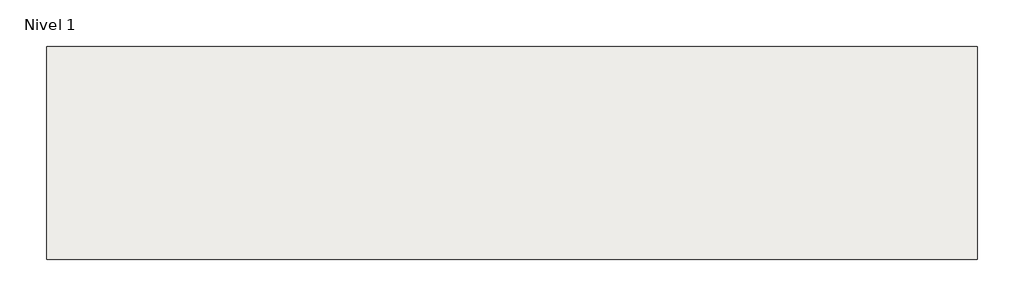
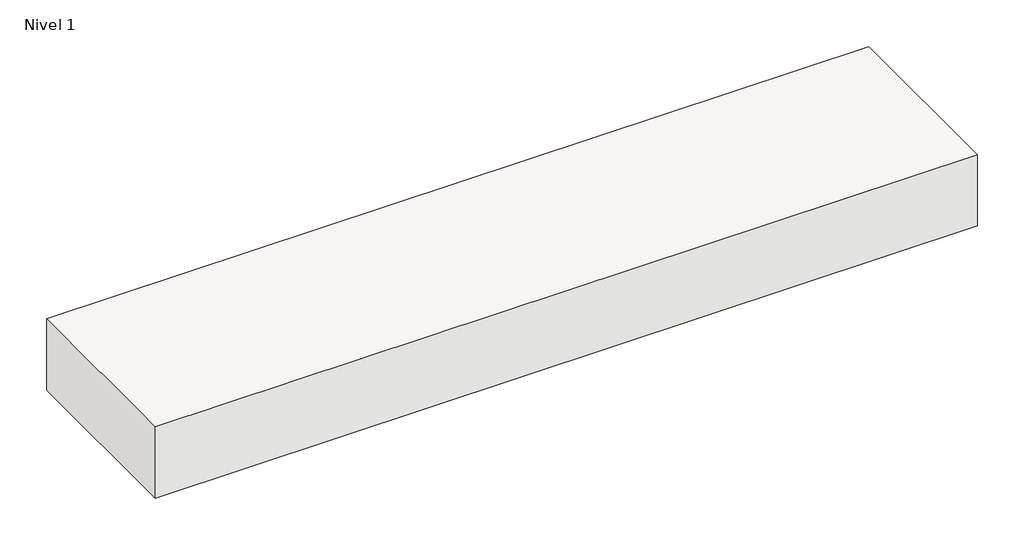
# One storey: 1 slab.
"""IFC4 building model written with IfcOpenShell, lengths in millimetres."""

from ifc_helpers import new_model, si_unit, frame, origin, place, context, project, spatial, polyline, outline, extrude, element, save

model = new_model("IFC4")

# Units and contexts
model_context = context("Model", 3, world=origin())
ifc_project = project(units=[si_unit("LENGTHUNIT", "METRE", prefix="MILLI")], contexts=[model_context])

# Site, building, storey
site = spatial("IfcSite", under=ifc_project)
building = spatial("IfcBuilding", under=site)
storey = spatial("IfcBuildingStorey", under=building, Name="Nivel 1", Elevation=0.0)

# Slab
placement = place(None, origin())
element("IfcSlab", 1, ObjectType="FLOOR-COAT", at=placement, inside=storey, context=model_context, shape_type="SweptSolid", body=[
    extrude(outline(polyline([(2993.0117071, 9232.6557725), (2993.0117071, 8682.6557725), (593.0117071, 8682.6557725), (593.0117071, 9232.6557725), (2993.0117071, 9232.6557725)])), frame((0.0, 0.0, -220.0), z_axis=(0.0, 0.0, 1.0), x_axis=(1.0, 0.0, 0.0)), (0.0, 0.0, 1.0), 220.0),
])

save(model, "model.ifc")
